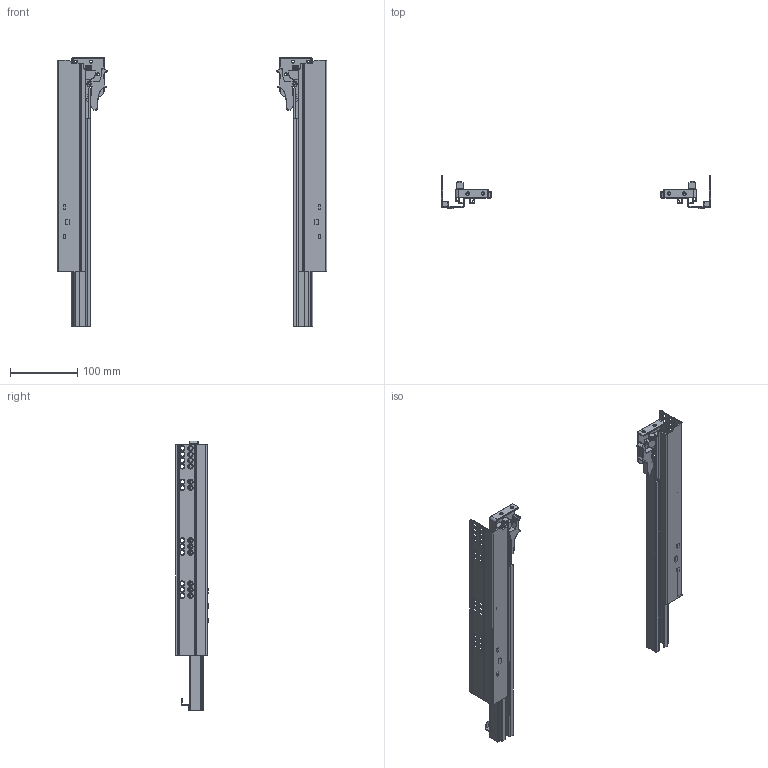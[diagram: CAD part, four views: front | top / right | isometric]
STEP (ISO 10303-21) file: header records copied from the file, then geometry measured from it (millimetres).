
FILE_DESCRIPTION(/* description */ (''),/* implementation_level */ '2;1');
FILE_NAME(/* name */ 'D:\$Workingspace\Designs\Katalog\Cadsoft\GTV Prowadnice\Prowadnice GTV_bryły 3D\PB-0SHX-400-A.stp',/* time_stamp */ '2016-11-21T12:17:11+01:00',/* author */ ('tomaszw'),/* organization */ (''),/* preprocessor_version */ 'ST-DEVELOPER v16.1',/* originating_system */ 'Autodesk Inventor 2016',/* authorisation */ '');
FILE_SCHEMA (('AUTOMOTIVE_DESIGN { 1 0 10303 214 3 1 1 }'));
Products named in the file (9): PB-0SHX-CL-400; PB-0SHX-CR-400; PB-0SHX-DL-400; PB-0SHX-DR-400; PB-0SHX-DWL-400; PB-0SHX-DWR-400; PB-0SHX-SL; PB-0SHX-SR; PB-0SHX
Assembly tree (8 placements, depth 2):
  PB-0SHX
    PB-0SHX-CL-400
    PB-0SHX-CR-400
    PB-0SHX-DL-400
    PB-0SHX-DR-400
    PB-0SHX-DWL-400
    PB-0SHX-DWR-400
    PB-0SHX-SL
    PB-0SHX-SR
Bounding box: 400 x 48.8 x 400.5 mm (x, y, z)
Volume: 269357.6 mm3; surface area: 331245.3 mm2
Topology: 14 solids, 14 shells, 3456 faces, 8186 edges, 4762 vertices
Faces by surface type: bspline 1080, cylinder 924, torus 550, plane 462, sphere 332, cone 108
Full cylindrical faces by diameter (mm): 3.64 x2, 4 x6, 4.5 x6, 5.64 x2, 6 x48
Entity records: 143347 total; most frequent: CARTESIAN_POINT 66015, ORIENTED_EDGE 15976, DIRECTION 14400, EDGE_CURVE 7988, AXIS2_PLACEMENT_3D 6195, VERTEX_POINT 4706, CIRCLE 3756, EDGE_LOOP 3734
